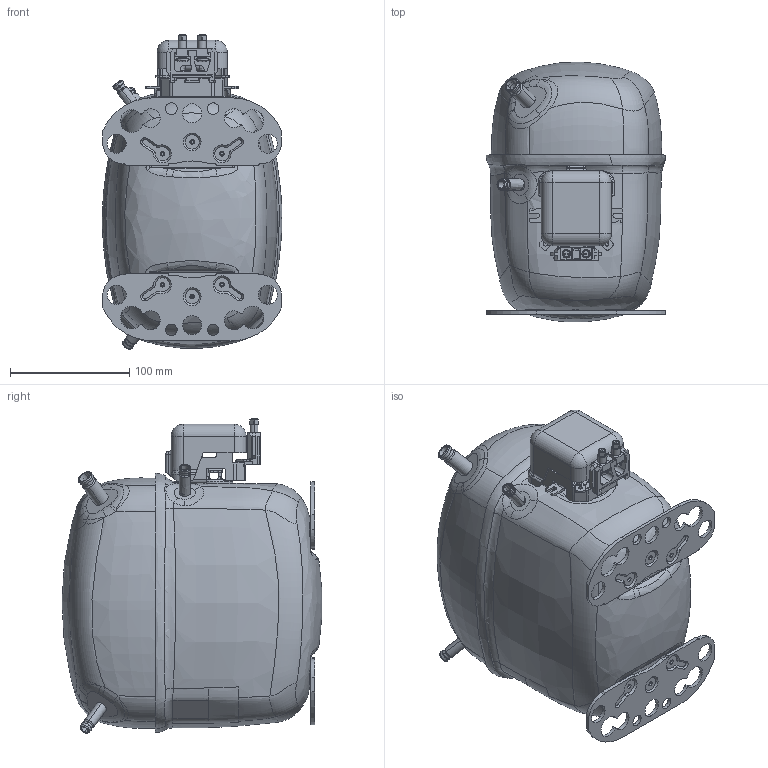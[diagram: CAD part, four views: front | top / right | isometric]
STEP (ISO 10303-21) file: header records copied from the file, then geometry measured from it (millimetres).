
FILE_DESCRIPTION((''),'2;1');
FILE_NAME('104G8140_ASM','2025-02-18T09:13:26',('SKHC0530'),(''),'CREO PARAMETRIC BY PTC INC, 2022162','CREO PARAMETRIC BY PTC INC, 2022162','');
FILE_SCHEMA(('CONFIG_CONTROL_DESIGN'));
Products named in the file (23): 104B1402_DES_AF1; 104B0488; 104B0321; 104B0378; 104B0407_AF2; 104B0053_ASM; 117-3617_BODY; 117-3617_PINS; 117-3617_GLASS_FUSED; 117-3617_ASM; 103N0510; 104B0504_AF58; 104B1114_ASM; 104B0605; 104B0494; 104B0572; 104B0077_ASM; 103N0328_JOCH_1; 103N0444_SCHRAUBE_1; 103N0396; 103N1004_ASM; 103N2009; 104G8140_ASM
Assembly tree (28 placements, depth 4):
  104G8140_ASM
    104B1114_ASM
      104B1402_DES_AF1
      104B0488
      104B0321  x2
      104B0053_ASM
        104B0378
        104B0407_AF2
      117-3617_ASM
        117-3617_BODY
        117-3617_PINS  x3
        117-3617_GLASS_FUSED  x3
      103N0510
      104B0504_AF58
    104B0077_ASM
      104B0605
      104B0494
      104B0572
    103N1004_ASM
      103N0328_JOCH_1
      103N0444_SCHRAUBE_1  x2
      103N0396
    103N2009
Bounding box: 150.84 x 218.42 x 264.23 mm (x, y, z)
Volume: 528154.8 mm3; surface area: 380559.6 mm2
Topology: 23 solids, 23 shells, 1528 faces, 3930 edges, 2439 vertices
Faces by surface type: plane 465, bspline 449, cylinder 371, cone 100, torus 74, sphere 44, extrusion 13, revolution 12
Entity records: 125415 total; most frequent: CARTESIAN_POINT 95400, ORIENTED_EDGE 6862, DIRECTION 5068, EDGE_CURVE 3431, VERTEX_POINT 2150, AXIS2_PLACEMENT_3D 1822, VECTOR 1420, LINE 1407
